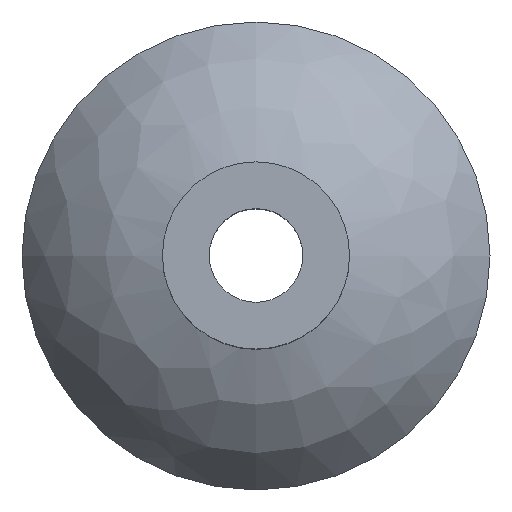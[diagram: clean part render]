
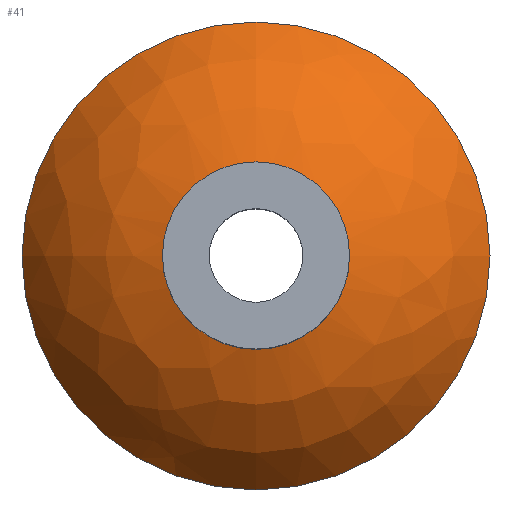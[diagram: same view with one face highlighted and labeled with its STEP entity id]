
A CAD part, top view. The second image highlights one B-rep face of the part: STEP entity #41.
In plain terms, the highlighted free-form (B-spline) face has degree [3, 3] with [4, 7] control points.
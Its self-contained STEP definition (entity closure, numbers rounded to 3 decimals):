
#41=ADVANCED_FACE('',(#82,#83),#84,.T.);
#82=FACE_OUTER_BOUND('',#117,.T.);
#83=FACE_OUTER_BOUND('',#118,.T.);
#84=(B_SPLINE_SURFACE(3,3,((#120,#121,#122,#123,#124,#125,#126),(#127,#128,#129,#130,#131,#132,#133),(#134,#135,#136,#137,#138,#139,#140),(#141,#142,#143,#144,#145,#146,#147)),.UNSPECIFIED.,.F.,.T.,.F.)B_SPLINE_SURFACE_WITH_KNOTS((4,4),(4,3,4),(0.0,6.283),(-1.318,-0.927,-0.536),.UNSPECIFIED.)RATIONAL_B_SPLINE_SURFACE(((1.0,0.333,0.333,1.0,0.333,0.333,1.0),(0.95,0.317,0.317,0.95,0.317,0.317,0.95),(0.95,0.317,0.317,0.95,0.317,0.317,0.95),(1.0,0.333,0.333,1.0,0.333,0.333,1.0)))BOUNDED_SURFACE()REPRESENTATION_ITEM('')GEOMETRIC_REPRESENTATION_ITEM()SURFACE());
#117=EDGE_LOOP('',(#224));
#118=EDGE_LOOP('',(#225));
#120=CARTESIAN_POINT('',(-10.0,0.0,-4.5));
#121=CARTESIAN_POINT('',(-10.0,20.0,-4.5));
#122=CARTESIAN_POINT('',(10.0,20.0,-4.5));
#123=CARTESIAN_POINT('',(10.0,0.0,-4.5));
#124=CARTESIAN_POINT('',(10.0,-20.0,-4.5));
#125=CARTESIAN_POINT('',(-10.0,-20.0,-4.5));
#126=CARTESIAN_POINT('',(-10.0,0.0,-4.5));
#127=CARTESIAN_POINT('',(-8.655,0.0,-2.237));
#128=CARTESIAN_POINT('',(-8.655,17.31,-2.237));
#129=CARTESIAN_POINT('',(8.655,17.31,-2.237));
#130=CARTESIAN_POINT('',(8.655,0.0,-2.237));
#131=CARTESIAN_POINT('',(8.655,-17.31,-2.237));
#132=CARTESIAN_POINT('',(-8.655,-17.31,-2.237));
#133=CARTESIAN_POINT('',(-8.655,0.0,-2.237));
#134=CARTESIAN_POINT('',(-6.549,0.0,-0.658));
#135=CARTESIAN_POINT('',(-6.549,13.098,-0.658));
#136=CARTESIAN_POINT('',(6.549,13.098,-0.658));
#137=CARTESIAN_POINT('',(6.549,0.0,-0.658));
#138=CARTESIAN_POINT('',(6.549,-13.098,-0.658));
#139=CARTESIAN_POINT('',(-6.549,-13.098,-0.658));
#140=CARTESIAN_POINT('',(-6.549,0.0,-0.658));
#141=CARTESIAN_POINT('',(-4.0,0.0,0.));
#142=CARTESIAN_POINT('',(-4.0,8.0,0.));
#143=CARTESIAN_POINT('',(4.0,8.0,0.));
#144=CARTESIAN_POINT('',(4.0,0.0,0.));
#145=CARTESIAN_POINT('',(4.0,-8.0,0.));
#146=CARTESIAN_POINT('',(-4.0,-8.0,0.));
#147=CARTESIAN_POINT('',(-4.0,0.0,0.));
#224=ORIENTED_EDGE('',*,*,#230,.F.);
#225=ORIENTED_EDGE('',*,*,#238,.T.);
#230=EDGE_CURVE('',#244,#244,#245,.T.);
#238=EDGE_CURVE('',#257,#257,#258,.T.);
#244=VERTEX_POINT('',#265);
#245=CIRCLE('',#266,10.0);
#257=VERTEX_POINT('',#278);
#258=CIRCLE('',#279,4.0);
#265=CARTESIAN_POINT('',(-10.0,0.0,-4.5));
#266=AXIS2_PLACEMENT_3D('',#285,#286,#287);
#278=CARTESIAN_POINT('',(-4.0,0.0,0.));
#279=AXIS2_PLACEMENT_3D('',#300,#301,#302);
#285=CARTESIAN_POINT('',(0.0,0.0,-4.5));
#286=DIRECTION('',(0.0,0.0,-1.0));
#287=DIRECTION('',(-1.0,0.0,0.0));
#300=CARTESIAN_POINT('',(0.0,0.0,0.));
#301=DIRECTION('',(0.0,0.0,-1.0));
#302=DIRECTION('',(-1.0,0.0,0.0));
